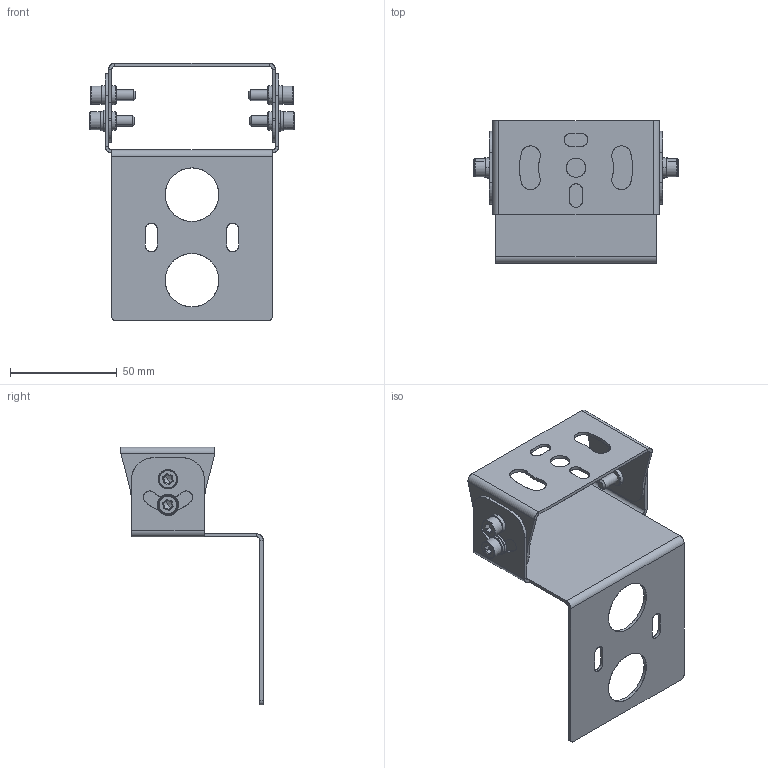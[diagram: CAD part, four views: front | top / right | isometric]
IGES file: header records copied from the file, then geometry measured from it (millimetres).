
Start section: SolidWorks IGES file using analytic representation for surfaces
Global section: file name: C:\Users\User2\Desktop\Lego IGS\Êðîíøòåéí Lego.IGS; native system: SolidWorks 2024; preprocessor: SolidWorks 2024; author: User2; date: 251022.124524; units: millimetre
Bounding box: 95.4 x 66.5 x 120.5 mm (x, y, z)
Surface area: 39579.9 mm2 (no closed solid volume)
Topology: 0 solids, 0 shells, 425 faces, 5540 edges, 5516 vertices
Faces by surface type: revolution 233, bspline 192
